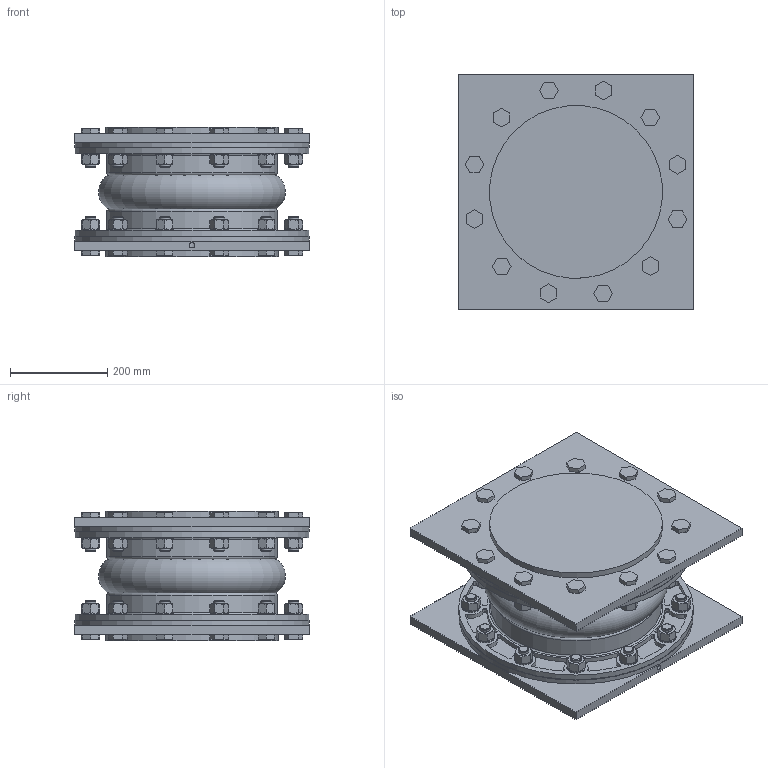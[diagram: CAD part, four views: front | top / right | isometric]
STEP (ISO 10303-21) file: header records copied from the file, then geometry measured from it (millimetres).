
FILE_DESCRIPTION(/* description */ (''),/* implementation_level */ '2;1');
FILE_NAME(/* name */ 'C:\Users\rramoutar\Desktop\New folder\451AS-12.stp',/* time_stamp */ '2016-01-15T14:29:47-05:00',/* author */ ('rramoutar'),/* organization */ ('Mason Industries Inc.'),/* preprocessor_version */ 'ST-DEVELOPER v15.6',/* originating_system */ 'Autodesk Inventor 2015',/* authorisation */ '');
FILE_SCHEMA (('CONFIG_CONTROL_DESIGN'));
Length unit declared in the file: inch
Products named in the file (1): 451AS-12 ASSEMBLY A-34490
Bounding box: 482.6 x 482.6 x 266.7 mm (x, y, z)
Volume: 20469474.1 mm3; surface area: 3594403.8 mm2
Topology: 80 solids, 82 shells, 1748 faces, 3916 edges, 2384 vertices
Faces by surface type: plane 704, cylinder 620, cone 386, torus 38
Full cylindrical faces by diameter (mm): 11.112 x1, 12.7 x2, 19.177 x24, 22.225 x24, 22.733 x24, 23.825 x24, 25.4 x217, 33.325 x24, 37.313 x24, 154.051 x1, 168.275 x1, 304.8 x2, 328.803 x2, 331.788 x2, 336.55 x2, 355.6 x2, 482.6 x4
Entity records: 46789 total; most frequent: CARTESIAN_POINT 8699, DIRECTION 7855, ORIENTED_EDGE 6648, AXIS2_PLACEMENT_3D 3361, EDGE_CURVE 3324, EDGE_LOOP 2572, VERTEX_POINT 2306, STYLED_ITEM 1828
